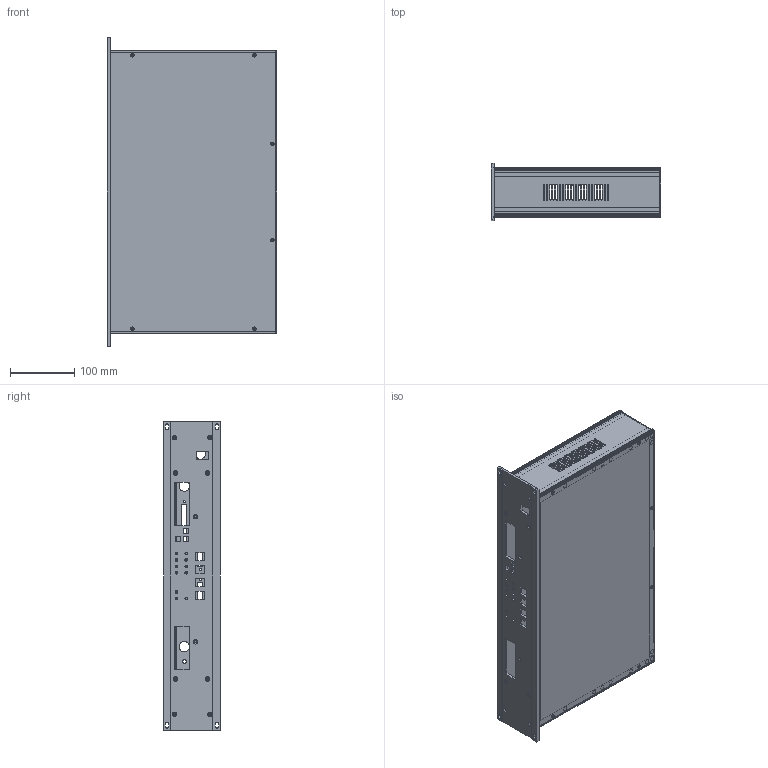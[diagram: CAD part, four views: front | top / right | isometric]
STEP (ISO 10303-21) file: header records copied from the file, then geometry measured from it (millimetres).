
FILE_DESCRIPTION (( 'STEP AP203' ), '1' );
FILE_NAME ('RB-ZDF5214v01-221020.STEP', '2024-12-31T09:11:06', ( '' ), ( '' ), 'SwSTEP 2.0', 'SolidWorks 2021', '' );
FILE_SCHEMA (( 'CONFIG_CONTROL_DESIGN' ));
Length unit declared in the file: millimetre
Products named in the file (1): RB-ZDF5214v01-221020
Bounding box: 264.5 x 88 x 480 mm (x, y, z)
Volume: 542056.5 mm3; surface area: 762600 mm2
Topology: 6 solids, 6 shells, 620 faces, 1877 edges, 1271 vertices
Faces by surface type: plane 354, cylinder 200, cone 66
Full cylindrical faces by diameter (mm): 2.5 x12, 3.5 x70, 4 x11, 6 x1, 16 x6
Entity records: 20083 total; most frequent: CARTESIAN_POINT 3377, DIRECTION 3334, ORIENTED_EDGE 3196, EDGE_CURVE 1598, VERTEX_POINT 1158, EDGE_LOOP 1136, AXIS2_PLACEMENT_3D 1115, VECTOR 1104
